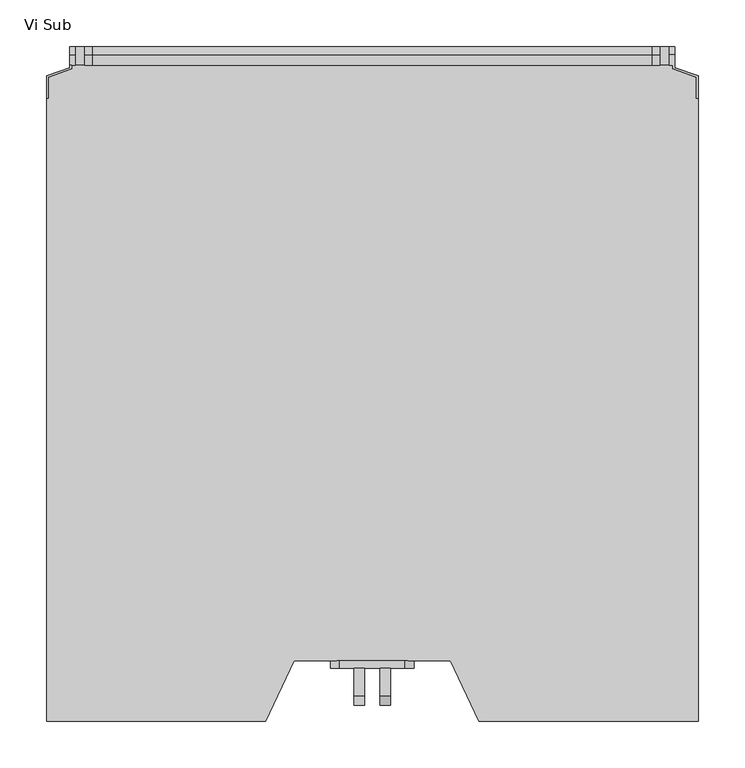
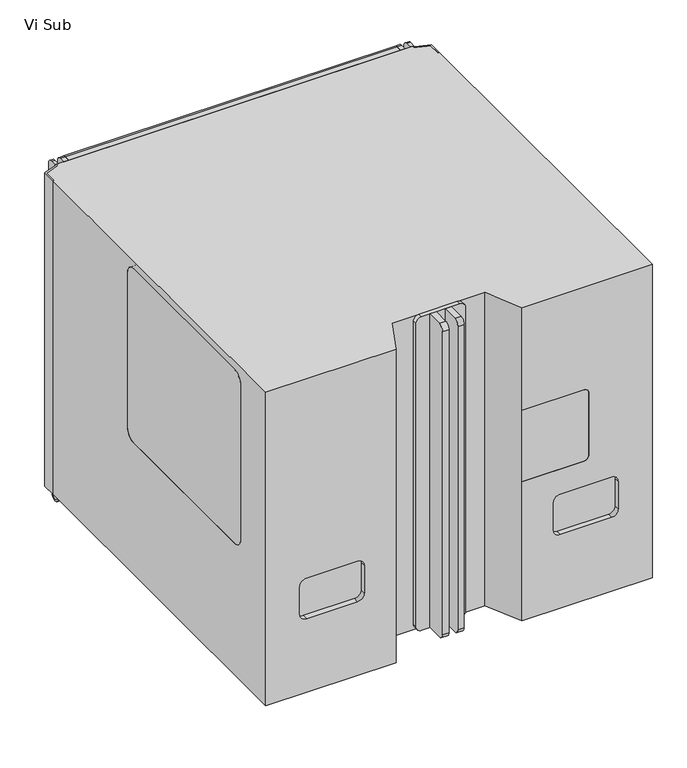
"""IFC4 building model written with IfcOpenShell, lengths in millimetres: proxy geometry, d&b V-Series Subwoofer : Vi Sub."""

from ifc_helpers import new_model, si_unit, point, frame, frame_2d, origin, place, context, project, spatial, polyline, circle_curve, trimmed, segment, composite_curve, outline, extrude, faceted_brep, source, transform, mapped, element, save
from ifc_brep_helpers import plane_surface, cylinder_surface, revolved_surface, advanced_brep


def vi_sub_f1fbe36c(model_context):
    return source(origin(), model_context, "Body", "SolidModel", [
        extrude(outline(composite_curve([segment(trimmed(circle_curve(frame_2d((352.25, -342.0)), 10.0), [point((362.25, -342.0))], [point((342.25, -342.0))], False, "CARTESIAN"), True, "CONTINUOUS"), segment(polyline([(342.25, -342.0), (342.25, -235.8)]), True, "CONTINUOUS"), segment(trimmed(circle_curve(frame_2d((352.25, -235.8)), 10.0), [point((342.25, -235.8))], [point((362.25, -235.8))], False, "CARTESIAN"), True, "CONTINUOUS"), segment(polyline([(362.25, -235.8), (362.25, -342.0)]), True, "CONTINUOUS")], self_intersect=False), holes=[composite_curve([segment(polyline([(346.25, -235.8), (346.25, -322.0)]), True, "CONTINUOUS"), segment(trimmed(circle_curve(frame_2d((352.25, -322.0)), 6.0), [point((346.25, -322.0))], [point((358.25, -322.0))], True, "CARTESIAN"), True, "CONTINUOUS"), segment(polyline([(358.25, -322.0), (358.25, -235.8)]), True, "CONTINUOUS"), segment(trimmed(circle_curve(frame_2d((352.25, -235.8)), 6.0), [point((358.25, -235.8))], [point((346.25, -235.8))], True, "CARTESIAN"), True, "CONTINUOUS")], self_intersect=False), composite_curve([segment(trimmed(circle_curve(frame_2d((352.25, -342.0)), 6.0), [point((358.25, -342.0))], [point((346.25, -342.0))], True, "CARTESIAN"), True, "CONTINUOUS"), segment(trimmed(circle_curve(frame_2d((352.25, -342.0)), 6.0), [point((346.25, -342.0))], [point((358.25, -342.0))], True, "CARTESIAN"), True, "CONTINUOUS")], self_intersect=False)]), frame((309.0, 0.0, 0.0), z_axis=(1.0, 0.0, 0.0), x_axis=(0.0, 1.0, 0.0)), (0.0, 0.0, 1.0), 10.0),
        extrude(outline(composite_curve([segment(trimmed(circle_curve(frame_2d((352.25, -342.0)), 10.0), [point((362.25, -342.0))], [point((342.25, -342.0))], False, "CARTESIAN"), True, "CONTINUOUS"), segment(polyline([(342.25, -342.0), (342.25, -235.8)]), True, "CONTINUOUS"), segment(trimmed(circle_curve(frame_2d((352.25, -235.8)), 10.0), [point((342.25, -235.8))], [point((362.25, -235.8))], False, "CARTESIAN"), True, "CONTINUOUS"), segment(polyline([(362.25, -235.8), (362.25, -342.0)]), True, "CONTINUOUS")], self_intersect=False), holes=[composite_curve([segment(polyline([(346.25, -235.8), (346.25, -322.0)]), True, "CONTINUOUS"), segment(trimmed(circle_curve(frame_2d((352.25, -322.0)), 6.0), [point((346.25, -322.0))], [point((358.25, -322.0))], True, "CARTESIAN"), True, "CONTINUOUS"), segment(polyline([(358.25, -322.0), (358.25, -235.8)]), True, "CONTINUOUS"), segment(trimmed(circle_curve(frame_2d((352.25, -235.8)), 6.0), [point((358.25, -235.8))], [point((346.25, -235.8))], True, "CARTESIAN"), True, "CONTINUOUS")], self_intersect=False), composite_curve([segment(trimmed(circle_curve(frame_2d((352.25, -342.0)), 6.0), [point((358.25, -342.0))], [point((346.25, -342.0))], True, "CARTESIAN"), True, "CONTINUOUS"), segment(trimmed(circle_curve(frame_2d((352.25, -342.0)), 6.0), [point((346.25, -342.0))], [point((358.25, -342.0))], True, "CARTESIAN"), True, "CONTINUOUS")], self_intersect=False)]), frame((-319.0, 0.0, 0.0), z_axis=(1.0, 0.0, 0.0), x_axis=(0.0, 1.0, 0.0)), (0.0, 0.0, 1.0), 10.0),
        extrude(outline(polyline([(-245.0, 342.25), (-280.0, 342.25), (-280.0, 362.25), (-245.0, 362.25), (-245.0, 342.25)])), frame((0.0, 0.0, 205.0), z_axis=(0.0, 0.0, 1.0), x_axis=(1.0, 0.0, 0.0)), (0.0, 0.0, 1.0), 35.0),
        extrude(outline(polyline([(-205.0, 342.25), (-240.0, 342.25), (-240.0, 362.25), (-205.0, 362.25), (-205.0, 342.25)])), frame((0.0, 0.0, 205.0), z_axis=(0.0, 0.0, 1.0), x_axis=(1.0, 0.0, 0.0)), (0.0, 0.0, 1.0), 35.0),
        extrude(outline(polyline([(-205.0, 342.25), (-240.0, 342.25), (-240.0, 362.25), (-205.0, 362.25), (-205.0, 342.25)])), frame((0.0, 0.0, 245.0), z_axis=(0.0, 0.0, 1.0), x_axis=(1.0, 0.0, 0.0)), (0.0, 0.0, 1.0), 35.0),
        extrude(outline(composite_curve([segment(trimmed(circle_curve(frame_2d((262.5, -262.5)), 17.5), [point((262.5, -245.0))], [point((262.5, -280.0))], False, "CARTESIAN"), True, "CONTINUOUS"), segment(trimmed(circle_curve(frame_2d((262.5, -262.5)), 17.5), [point((262.5, -280.0))], [point((262.5, -245.0))], False, "CARTESIAN"), True, "CONTINUOUS")], self_intersect=False)), frame((0.0, 342.25, 0.0), z_axis=(0.0, 1.0, 0.0), x_axis=(0.0, 0.0, 1.0)), (0.0, 0.0, 1.0), 20.0),
        advanced_brep(
        [(300.5, 342.25, -300.0), (300.5, 353.25, -300.0), (300.5, 362.25, -291.0), (300.5, 362.25, 291.0), (300.5, 353.25, 300.0), (300.5, 342.25, 300.0), (-300.5, 342.25, -300.0), (-300.5, 342.25, 300.0), (-300.5, 353.25, 300.0), (-300.5, 362.25, 291.0), (-300.5, 362.25, -291.0), (-300.5, 353.25, -300.0), (-280.0, 362.25, 205.0), (-245.0, 362.25, 205.0), (-245.0, 362.25, 240.0), (-280.0, 362.25, 240.0), (-240.0, 362.25, 205.0), (-205.0, 362.25, 205.0), (-205.0, 362.25, 240.0), (-240.0, 362.25, 240.0), (-240.0, 362.25, 245.0), (-205.0, 362.25, 245.0), (-205.0, 362.25, 280.0), (-240.0, 362.25, 280.0), (-245.0, 362.25, 262.5), (-280.0, 362.25, 262.5), (-245.0, 342.25, 205.0), (-280.0, 342.25, 205.0), (-280.0, 342.25, 240.0), (-245.0, 342.25, 240.0), (-205.0, 342.25, 205.0), (-240.0, 342.25, 205.0), (-240.0, 342.25, 240.0), (-205.0, 342.25, 240.0), (-205.0, 342.25, 245.0), (-240.0, 342.25, 245.0), (-240.0, 342.25, 280.0), (-205.0, 342.25, 280.0), (-280.0, 342.25, 262.5), (-245.0, 342.25, 262.5)],
        [
            (0, 1),
            (1, 2, circle_curve(frame((300.5, 353.25, -291.0), z_axis=(1.0, 0.0, 0.0), x_axis=(0.0, -1.0, 0.0)), 9.0)),
            (2, 3),
            (3, 4, circle_curve(frame((300.5, 353.25, 291.0), z_axis=(1.0, 0.0, 0.0), x_axis=(0.0, -1.0, 0.0)), 9.0)),
            (4, 5),
            (5, 0),
            (6, 7),
            (7, 8),
            (8, 9, circle_curve(frame((-300.5, 353.25, 291.0), z_axis=(-1.0, 0.0, 0.0), x_axis=(0.0, -1.0, 0.0)), 9.0)),
            (9, 10),
            (10, 11, circle_curve(frame((-300.5, 353.25, -291.0), z_axis=(-1.0, 0.0, 0.0), x_axis=(0.0, -1.0, 0.0)), 9.0)),
            (11, 6),
            (2, 10),
            (9, 3),
            (12, 13),
            (13, 14),
            (14, 15),
            (15, 12),
            (16, 17),
            (17, 18),
            (18, 19),
            (19, 16),
            (20, 21),
            (21, 22),
            (22, 23),
            (23, 20),
            (24, 25, circle_curve(frame((-262.5, 362.25, 262.5), z_axis=(0.0, -1.0, 0.0), x_axis=(1.0, 0.0, 0.0)), 17.5)),
            (25, 24, circle_curve(frame((-262.5, 362.25, 262.5), z_axis=(0.0, -1.0, 0.0), x_axis=(1.0, 0.0, 0.0)), 17.5)),
            (5, 7),
            (6, 0),
            (26, 27),
            (27, 28),
            (28, 29),
            (29, 26),
            (30, 31),
            (31, 32),
            (32, 33),
            (33, 30),
            (34, 35),
            (35, 36),
            (36, 37),
            (37, 34),
            (38, 39, circle_curve(frame((-262.5, 342.25, 262.5), z_axis=(0.0, 1.0, 0.0), x_axis=(1.0, 0.0, 0.0)), 17.5)),
            (39, 38, circle_curve(frame((-262.5, 342.25, 262.5), z_axis=(0.0, 1.0, 0.0), x_axis=(1.0, 0.0, 0.0)), 17.5)),
            (11, 1),
            (8, 4),
            (12, 27),
            (26, 13),
            (15, 28),
            (14, 29),
            (16, 31),
            (30, 17),
            (19, 32),
            (18, 33),
            (20, 35),
            (34, 21),
            (23, 36),
            (22, 37),
            (24, 39),
            (38, 25),
        ],
        [
            plane_surface(frame((300.5, 342.25, -300.0), z_axis=(1.0, 0.0, 0.0), x_axis=(0.0, 1.0, 0.0))),
            plane_surface(frame((-300.5, 342.25, -300.0), z_axis=(-1.0, 0.0, 0.0), x_axis=(0.0, -1.0, 0.0))),
            plane_surface(frame((300.5, 362.25, -291.0), z_axis=(0.0, 1.0, 0.0), x_axis=(-1.0, 0.0, 0.0))),
            plane_surface(frame((300.5, 342.25, 300.0), z_axis=(0.0, -1.0, 0.0), x_axis=(-1.0, 0.0, 0.0))),
            plane_surface(frame((300.5, 342.25, -300.0), z_axis=(0.0, 0.0, -1.0), x_axis=(-1.0, 0.0, 0.0))),
            cylinder_surface(frame((-300.5, 353.25, -291.0), z_axis=(1.0, 0.0, 0.0), x_axis=(0.0, -1.0, 0.0)), 9.0),
            cylinder_surface(frame((-300.5, 353.25, 291.0), z_axis=(1.0, 0.0, 0.0), x_axis=(0.0, -1.0, 0.0)), 9.0),
            plane_surface(frame((300.5, 353.25, 300.0), z_axis=(0.0, 0.0, 1.0), x_axis=(-1.0, 0.0, 0.0))),
            plane_surface(frame((-245.0, 362.25, 205.0), z_axis=(0.0, 0.0, 1.0), x_axis=(0.0, -1.0, 0.0))),
            plane_surface(frame((-280.0, 362.25, 205.0), z_axis=(1.0, 0.0, 0.0), x_axis=(0.0, -1.0, 0.0))),
            plane_surface(frame((-280.0, 362.25, 240.0), z_axis=(0.0, 0.0, -1.0), x_axis=(0.0, -1.0, 0.0))),
            plane_surface(frame((-245.0, 362.25, 240.0), z_axis=(-1.0, 0.0, 0.0), x_axis=(0.0, -1.0, 0.0))),
            plane_surface(frame((-205.0, 362.25, 205.0), z_axis=(0.0, 0.0, 1.0), x_axis=(0.0, -1.0, 0.0))),
            plane_surface(frame((-240.0, 362.25, 205.0), z_axis=(1.0, 0.0, 0.0), x_axis=(0.0, -1.0, 0.0))),
            plane_surface(frame((-240.0, 362.25, 240.0), z_axis=(0.0, 0.0, -1.0), x_axis=(0.0, -1.0, 0.0))),
            plane_surface(frame((-205.0, 362.25, 240.0), z_axis=(-1.0, 0.0, 0.0), x_axis=(0.0, -1.0, 0.0))),
            plane_surface(frame((-205.0, 362.25, 245.0), z_axis=(0.0, 0.0, 1.0), x_axis=(0.0, -1.0, 0.0))),
            plane_surface(frame((-240.0, 362.25, 245.0), z_axis=(1.0, 0.0, 0.0), x_axis=(0.0, -1.0, 0.0))),
            plane_surface(frame((-240.0, 362.25, 280.0), z_axis=(0.0, 0.0, -1.0), x_axis=(0.0, -1.0, 0.0))),
            plane_surface(frame((-205.0, 362.25, 280.0), z_axis=(-1.0, 0.0, 0.0), x_axis=(0.0, -1.0, 0.0))),
            revolved_surface(polyline([(-245.0, 362.25, 262.5), (-245.0, 342.25, 262.5)]), (-262.5, 230.0, 262.5), (0.0, 1.0, 0.0)),
        ],
        [
            (0, [[1, 2, 3, 4, 5, 6]]),
            (1, [[7, 8, 9, 10, 11, 12]]),
            (2, [[-3, 13, -10, 14], [15, 16, 17, 18], [19, 20, 21, 22], [23, 24, 25, 26], [27, 28]]),
            (3, [[-6, 29, -7, 30], [31, 32, 33, 34], [35, 36, 37, 38], [39, 40, 41, 42], [43, 44]]),
            (4, [[-1, -30, -12, 45]]),
            (5, [[-2, -45, -11, -13]]),
            (6, [[-4, -14, -9, 46]]),
            (7, [[-5, -46, -8, -29]]),
            (8, [[47, -31, 48, -15]]),
            (9, [[-47, -18, 49, -32]]),
            (10, [[-49, -17, 50, -33]]),
            (11, [[-48, -34, -50, -16]]),
            (12, [[51, -35, 52, -19]]),
            (13, [[-51, -22, 53, -36]]),
            (14, [[-53, -21, 54, -37]]),
            (15, [[-52, -38, -54, -20]]),
            (16, [[55, -39, 56, -23]]),
            (17, [[-55, -26, 57, -40]]),
            (18, [[-57, -25, 58, -41]]),
            (19, [[-56, -42, -58, -24]]),
            (20, [[59, -43, 60, -27]]),
            (20, [[-59, -28, -60, -44]]),
        ],
    ),
        advanced_brep(
        [(309.0, 362.25, 250.0), (319.0, 362.25, 250.0), (319.0, 362.25, 291.0), (325.0, 362.25, 291.0), (325.0, 362.25, -291.0), (319.0, 362.25, -291.0), (319.0, 362.25, -185.0), (309.0, 362.25, -185.0), (309.0, 362.25, -291.0), (300.5, 362.25, -291.0), (300.5, 362.25, 291.0), (309.0, 362.25, 291.0), (309.0, 342.25, -185.0), (319.0, 342.25, -185.0), (319.0, 342.25, -300.0), (323.0, 342.25, -300.0), (323.0, 342.25, 300.0), (319.0, 342.25, 300.0), (319.0, 342.25, 250.0), (309.0, 342.25, 250.0), (309.0, 342.25, 300.0), (300.5, 342.25, 300.0), (300.5, 342.25, -300.0), (309.0, 342.25, -300.0), (300.5, 353.25, -300.0), (300.5, 353.25, 300.0), (309.0, 353.25, 300.0), (309.0, 353.25, -300.0), (348.0, 306.75, -300.0), (348.0, 329.2503291, -300.0), (323.0, 338.3495849, -300.0), (319.0, 353.25, -300.0), (325.0, 353.25, -300.0), (325.0, 339.75, -300.0), (350.0, 330.6507441, -300.0), (350.0, 306.75, -300.0), (348.0, 306.75, 300.0), (350.0, 306.75, 300.0), (350.0, 330.6507441, 300.0), (325.0, 339.75, 300.0), (325.0, 353.25, 300.0), (319.0, 353.25, 300.0), (323.0, 338.3495849, 300.0), (348.0, 329.2503291, 300.0)],
        [
            (0, 1),
            (1, 2),
            (2, 3),
            (3, 4),
            (4, 5),
            (5, 6),
            (6, 7),
            (7, 8),
            (8, 9),
            (9, 10),
            (10, 11),
            (11, 0),
            (12, 13),
            (13, 14),
            (14, 15),
            (15, 16),
            (16, 17),
            (17, 18),
            (18, 19),
            (19, 20),
            (20, 21),
            (21, 22),
            (22, 23),
            (23, 12),
            (6, 13),
            (12, 7),
            (0, 19),
            (18, 1),
            (9, 24, circle_curve(frame((300.5, 353.25, -291.0), z_axis=(-1.0, 0.0, 0.0), x_axis=(0.0, -1.0, 0.0)), 9.0)),
            (24, 22),
            (21, 25),
            (25, 10, circle_curve(frame((300.5, 353.25, 291.0), z_axis=(-1.0, 0.0, 0.0), x_axis=(0.0, -1.0, 0.0)), 9.0)),
            (11, 26, circle_curve(frame((309.0, 353.25, 291.0), z_axis=(1.0, 0.0, 0.0), x_axis=(0.0, -1.0, 0.0)), 9.0)),
            (26, 20),
            (23, 27),
            (27, 8, circle_curve(frame((309.0, 353.25, -291.0), z_axis=(1.0, 0.0, 0.0), x_axis=(0.0, -1.0, 0.0)), 9.0)),
            (25, 26),
            (24, 27),
            (28, 29),
            (29, 30),
            (30, 15),
            (14, 31),
            (31, 32),
            (32, 33),
            (33, 34),
            (34, 35),
            (35, 28),
            (36, 37),
            (37, 38),
            (38, 39),
            (39, 40),
            (40, 41),
            (41, 17),
            (16, 42),
            (42, 43),
            (43, 36),
            (28, 36),
            (43, 29),
            (42, 30),
            (32, 4, circle_curve(frame((325.0, 353.25, -291.0), z_axis=(1.0, 0.0, 0.0), x_axis=(0.0, -1.0, 0.0)), 9.0)),
            (3, 40, circle_curve(frame((325.0, 353.25, 291.0), z_axis=(1.0, 0.0, 0.0), x_axis=(0.0, -1.0, 0.0)), 9.0)),
            (39, 33),
            (38, 34),
            (37, 35),
            (41, 2, circle_curve(frame((319.0, 353.25, 291.0), z_axis=(-1.0, 0.0, 0.0), x_axis=(0.0, -1.0, 0.0)), 9.0)),
            (5, 31, circle_curve(frame((319.0, 353.25, -291.0), z_axis=(-1.0, 0.0, 0.0), x_axis=(0.0, -1.0, 0.0)), 9.0)),
        ],
        [
            plane_surface(frame((309.0, 362.25, 250.0), z_axis=(0.0, 1.0, 0.0), x_axis=(1.0, 0.0, 0.0))),
            plane_surface(frame((309.0, 342.25, -185.0), z_axis=(0.0, -1.0, 0.0), x_axis=(1.0, 0.0, 0.0))),
            plane_surface(frame((309.0, 362.25, -185.0), z_axis=(0.0, 0.0, -1.0), x_axis=(1.0, 0.0, 0.0))),
            plane_surface(frame((309.0, 342.25, 250.0), z_axis=(0.0, 0.0, 1.0), x_axis=(1.0, 0.0, 0.0))),
            plane_surface(frame((300.5, 344.25, -291.0), z_axis=(-1.0, 0.0, 0.0), x_axis=(0.0, 0.0, 1.0))),
            plane_surface(frame((309.0, 344.25, -291.0), z_axis=(1.0, 0.0, 0.0), x_axis=(0.0, 0.0, -1.0))),
            cylinder_surface(frame((309.0, 353.25, 291.0), z_axis=(-1.0, 0.0, 0.0), x_axis=(0.0, -1.0, 0.0)), 9.0),
            plane_surface(frame((300.5, 342.25, 300.0), z_axis=(0.0, 0.0, 1.0), x_axis=(1.0, 0.0, 0.0))),
            plane_surface(frame((300.5, 353.25, -300.0), z_axis=(0.0, 0.0, -1.0), x_axis=(1.0, 0.0, 0.0))),
            cylinder_surface(frame((309.0, 353.25, -291.0), z_axis=(-1.0, 0.0, 0.0), x_axis=(0.0, -1.0, 0.0)), 9.0),
            plane_surface(frame((-350.0, 306.75, -300.0), z_axis=(0.0, 0.0, -1.0), x_axis=(-1.0, 0.0, 0.0))),
            plane_surface(frame((-350.0, 306.75, 300.0), z_axis=(0.0, 0.0, 1.0), x_axis=(1.0, 0.0, 0.0))),
            plane_surface(frame((348.0, 306.75, -300.0), z_axis=(-1.0, 0.0, 0.0), x_axis=(0.0, 0.0, 1.0))),
            plane_surface(frame((348.0, 329.2503291, -300.0), z_axis=(-0.34202014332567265, -0.939692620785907, 0.0), x_axis=(0.0, 0.0, 1.0))),
            plane_surface(frame((323.0, 338.3495849, -300.0), z_axis=(-1.0, 0.0, 0.0), x_axis=(0.0, 0.0, 1.0))),
            plane_surface(frame((325.0, 342.25, -300.0), z_axis=(1.0, 0.0, 0.0), x_axis=(0.0, 0.0, 1.0))),
            plane_surface(frame((325.0, 339.75, -300.0), z_axis=(0.34202014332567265, 0.939692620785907, 0.0), x_axis=(0.0, 0.0, 1.0))),
            plane_surface(frame((350.0, 330.6507441, -300.0), z_axis=(1.0, 0.0, 0.0), x_axis=(0.0, 0.0, 1.0))),
            plane_surface(frame((350.0, 306.75, -300.0), z_axis=(0.0, -1.0, 0.0), x_axis=(0.0, 0.0, 1.0))),
            plane_surface(frame((319.0, 342.25, 791.3874785), z_axis=(-1.0, 0.0, 0.0), x_axis=(0.0, 0.0, 1.0))),
            cylinder_surface(frame((325.0, 353.25, -291.0), z_axis=(-1.0, 0.0, 0.0), x_axis=(0.0, -1.0, 0.0)), 9.0),
            cylinder_surface(frame((325.0, 353.25, 291.0), z_axis=(-1.0, 0.0, 0.0), x_axis=(0.0, -1.0, 0.0)), 9.0),
        ],
        [
            (0, [[1, 2, 3, 4, 5, 6, 7, 8, 9, 10, 11, 12]]),
            (1, [[13, 14, 15, 16, 17, 18, 19, 20, 21, 22, 23, 24]]),
            (2, [[-7, 25, -13, 26]]),
            (3, [[-1, 27, -19, 28]]),
            (4, [[29, 30, -22, 31, 32, -10]]),
            (5, [[33, 34, -20, -27, -12]]),
            (5, [[35, 36, -8, -26, -24]]),
            (6, [[-32, 37, -33, -11]]),
            (7, [[-31, -21, -34, -37]]),
            (8, [[-30, 38, -35, -23]]),
            (9, [[-29, -9, -36, -38]]),
            (10, [[39, 40, 41, -15, 42, 43, 44, 45, 46, 47]]),
            (11, [[48, 49, 50, 51, 52, 53, -17, 54, 55, 56]]),
            (12, [[-39, 57, -56, 58]]),
            (13, [[-40, -58, -55, 59]]),
            (14, [[-41, -59, -54, -16]]),
            (15, [[-44, 60, -4, 61, -51, 62]]),
            (16, [[-45, -62, -50, 63]]),
            (17, [[-46, -63, -49, 64]]),
            (18, [[-47, -64, -48, -57]]),
            (19, [[-53, 65, -2, -28, -18]]),
            (19, [[66, -42, -14, -25, -6]]),
            (20, [[-66, -5, -60, -43]]),
            (21, [[-65, -52, -61, -3]]),
        ],
    ),
        faceted_brep([(-348.0, 306.75, -300.0), (-350.0, 306.75, -300.0), (-350.0, 330.6507441, -300.0), (-325.0, 339.75, -300.0), (-325.0, 342.25, -300.0), (-323.0, 342.25, -300.0), (-323.0, 338.3495849, -300.0), (-348.0, 329.2503291, -300.0), (-348.0, 306.75, 300.0), (-348.0, 329.2503291, 300.0), (-323.0, 338.3495849, 300.0), (-323.0, 342.25, 300.0), (-325.0, 342.25, 300.0), (-325.0, 339.75, 300.0), (-350.0, 330.6507441, 300.0), (-350.0, 306.75, 300.0)], [[[0, 1, 2, 3, 4, 5, 6, 7]], [[8, 9, 10, 11, 12, 13, 14, 15]], [[1, 0, 8, 15]], [[2, 1, 15, 14]], [[3, 2, 14, 13]], [[4, 3, 13, 12]], [[5, 4, 12, 11]], [[6, 5, 11, 10]], [[7, 6, 10, 9]], [[0, 7, 9, 8]]]),
        advanced_brep(
        [(-309.0, 362.25, -185.0), (-319.0, 362.25, -185.0), (-319.0, 362.25, -291.0), (-325.0, 362.25, -291.0), (-325.0, 362.25, 291.0), (-319.0, 362.25, 291.0), (-319.0, 362.25, 250.0), (-309.0, 362.25, 250.0), (-309.0, 362.25, 291.0), (-300.5, 362.25, 291.0), (-300.5, 362.25, -291.0), (-309.0, 362.25, -291.0), (-309.0, 342.25, 250.0), (-319.0, 342.25, 250.0), (-319.0, 342.25, 300.0), (-325.0, 342.25, 300.0), (-325.0, 342.25, -300.0), (-319.0, 342.25, -300.0), (-319.0, 342.25, -185.0), (-309.0, 342.25, -185.0), (-309.0, 342.25, -300.0), (-300.5, 342.25, -300.0), (-300.5, 342.25, 300.0), (-309.0, 342.25, 300.0), (-319.0, 353.25, -300.0), (-319.0, 353.25, 300.0), (-325.0, 353.25, 300.0), (-325.0, 353.25, -300.0), (-300.5, 353.25, 300.0), (-300.5, 353.25, -300.0), (-309.0, 353.25, -300.0), (-309.0, 353.25, 300.0)],
        [
            (0, 1),
            (1, 2),
            (2, 3),
            (3, 4),
            (4, 5),
            (5, 6),
            (6, 7),
            (7, 8),
            (8, 9),
            (9, 10),
            (10, 11),
            (11, 0),
            (12, 13),
            (13, 14),
            (14, 15),
            (15, 16),
            (16, 17),
            (17, 18),
            (18, 19),
            (19, 20),
            (20, 21),
            (21, 22),
            (22, 23),
            (23, 12),
            (0, 19),
            (18, 1),
            (6, 13),
            (12, 7),
            (17, 24),
            (24, 2, circle_curve(frame((-319.0, 353.25, -291.0), z_axis=(1.0, 0.0, 0.0), x_axis=(0.0, -1.0, 0.0)), 9.0)),
            (5, 25, circle_curve(frame((-319.0, 353.25, 291.0), z_axis=(1.0, 0.0, 0.0), x_axis=(0.0, -1.0, 0.0)), 9.0)),
            (25, 14),
            (15, 26),
            (26, 4, circle_curve(frame((-325.0, 353.25, 291.0), z_axis=(-1.0, 0.0, 0.0), x_axis=(0.0, -1.0, 0.0)), 9.0)),
            (3, 27, circle_curve(frame((-325.0, 353.25, -291.0), z_axis=(-1.0, 0.0, 0.0), x_axis=(0.0, -1.0, 0.0)), 9.0)),
            (27, 16),
            (27, 24),
            (26, 25),
            (9, 28, circle_curve(frame((-300.5, 353.25, 291.0), z_axis=(1.0, 0.0, 0.0), x_axis=(0.0, -1.0, 0.0)), 9.0)),
            (28, 22),
            (21, 29),
            (29, 10, circle_curve(frame((-300.5, 353.25, -291.0), z_axis=(1.0, 0.0, 0.0), x_axis=(0.0, -1.0, 0.0)), 9.0)),
            (11, 30, circle_curve(frame((-309.0, 353.25, -291.0), z_axis=(-1.0, 0.0, 0.0), x_axis=(0.0, -1.0, 0.0)), 9.0)),
            (30, 20),
            (23, 31),
            (31, 8, circle_curve(frame((-309.0, 353.25, 291.0), z_axis=(-1.0, 0.0, 0.0), x_axis=(0.0, -1.0, 0.0)), 9.0)),
            (31, 28),
            (30, 29),
        ],
        [
            plane_surface(frame((-309.0, 362.25, -185.0), z_axis=(0.0, 1.0, 0.0), x_axis=(-1.0, 0.0, 0.0))),
            plane_surface(frame((-309.0, 342.25, 250.0), z_axis=(0.0, -1.0, 0.0), x_axis=(-1.0, 0.0, 0.0))),
            plane_surface(frame((-309.0, 342.25, -185.0), z_axis=(0.0, 0.0, -1.0), x_axis=(-1.0, 0.0, 0.0))),
            plane_surface(frame((-309.0, 362.25, 250.0), z_axis=(0.0, 0.0, 1.0), x_axis=(-1.0, 0.0, 0.0))),
            plane_surface(frame((-319.0, 342.25, -300.0), z_axis=(1.0, 0.0, 0.0), x_axis=(0.0, 1.0, 0.0))),
            plane_surface(frame((-325.0, 342.25, -300.0), z_axis=(-1.0, 0.0, 0.0), x_axis=(0.0, -1.0, 0.0))),
            plane_surface(frame((-319.0, 342.25, -300.0), z_axis=(0.0, 0.0, -1.0), x_axis=(-1.0, 0.0, 0.0))),
            cylinder_surface(frame((-325.0, 353.25, -291.0), z_axis=(1.0, 0.0, 0.0), x_axis=(0.0, -1.0, 0.0)), 9.0),
            cylinder_surface(frame((-325.0, 353.25, 291.0), z_axis=(1.0, 0.0, 0.0), x_axis=(0.0, -1.0, 0.0)), 9.0),
            plane_surface(frame((-319.0, 353.25, 300.0), z_axis=(0.0, 0.0, 1.0), x_axis=(-1.0, 0.0, 0.0))),
            plane_surface(frame((-300.5, 362.25, -291.0), z_axis=(1.0, 0.0, 0.0), x_axis=(0.0, 0.0, 1.0))),
            plane_surface(frame((-309.0, 362.25, -291.0), z_axis=(-1.0, 0.0, 0.0), x_axis=(0.0, 0.0, -1.0))),
            cylinder_surface(frame((-309.0, 353.25, 291.0), z_axis=(1.0, 0.0, 0.0), x_axis=(0.0, -1.0, 0.0)), 9.0),
            plane_surface(frame((-300.5, 353.25, 300.0), z_axis=(0.0, 0.0, 1.0), x_axis=(-1.0, 0.0, 0.0))),
            plane_surface(frame((-300.5, 342.25, -300.0), z_axis=(0.0, 0.0, -1.0), x_axis=(-1.0, 0.0, 0.0))),
            cylinder_surface(frame((-309.0, 353.25, -291.0), z_axis=(1.0, 0.0, 0.0), x_axis=(0.0, -1.0, 0.0)), 9.0),
        ],
        [
            (0, [[1, 2, 3, 4, 5, 6, 7, 8, 9, 10, 11, 12]]),
            (1, [[13, 14, 15, 16, 17, 18, 19, 20, 21, 22, 23, 24]]),
            (2, [[-1, 25, -19, 26]]),
            (3, [[-7, 27, -13, 28]]),
            (4, [[29, 30, -2, -26, -18]]),
            (4, [[31, 32, -14, -27, -6]]),
            (5, [[-16, 33, 34, -4, 35, 36]]),
            (6, [[-29, -17, -36, 37]]),
            (7, [[-30, -37, -35, -3]]),
            (8, [[-31, -5, -34, 38]]),
            (9, [[-32, -38, -33, -15]]),
            (10, [[-10, 39, 40, -22, 41, 42]]),
            (11, [[43, 44, -20, -25, -12]]),
            (11, [[45, 46, -8, -28, -24]]),
            (12, [[-39, -9, -46, 47]]),
            (13, [[-40, -47, -45, -23]]),
            (14, [[-41, -21, -44, 48]]),
            (15, [[-42, -48, -43, -11]]),
        ],
    ),
        extrude(outline(composite_curve([segment(trimmed(circle_curve(frame_2d((-334.75, 290.0)), 10.0), [point((-344.75, 290.0))], [point((-334.75, 300.0))], False, "CARTESIAN"), True, "CONTINUOUS"), segment(polyline([(-334.75, 300.0), (-305.25, 300.0), (-305.25, -300.04678), (-334.75, -300.04678)]), True, "CONTINUOUS"), segment(trimmed(circle_curve(frame_2d((-334.75, -290.04678)), 10.0), [point((-334.75, -300.04678))], [point((-344.75, -290.04678))], False, "CARTESIAN"), True, "CONTINUOUS"), segment(polyline([(-344.75, -290.04678), (-344.75, 290.0)]), True, "CONTINUOUS")], self_intersect=False)), frame((8.25, 0.0, 0.0), z_axis=(1.0, 0.0, 0.0), x_axis=(0.0, 1.0, 0.0)), (0.0, 0.0, 1.0), 11.25),
        extrude(outline(composite_curve([segment(trimmed(circle_curve(frame_2d((-334.75, 290.0)), 10.0), [point((-344.75, 290.0))], [point((-334.75, 300.0))], False, "CARTESIAN"), True, "CONTINUOUS"), segment(polyline([(-334.75, 300.0), (-305.25, 300.0), (-305.25, -300.04678), (-334.75, -300.04678)]), True, "CONTINUOUS"), segment(trimmed(circle_curve(frame_2d((-334.75, -290.04678)), 10.0), [point((-334.75, -300.04678))], [point((-344.75, -290.04678))], False, "CARTESIAN"), True, "CONTINUOUS"), segment(polyline([(-344.75, -290.04678), (-344.75, 290.0)]), True, "CONTINUOUS")], self_intersect=False)), frame((-19.5, 0.0, 0.0), z_axis=(1.0, 0.0, 0.0), x_axis=(0.0, 1.0, 0.0)), (0.0, 0.0, 1.0), 11.25),
        extrude(outline(composite_curve([segment(polyline([(290.0, -45.0), (-290.0, -45.0)]), True, "CONTINUOUS"), segment(trimmed(circle_curve(frame_2d((-290.0, -35.0)), 10.0), [point((-290.0, -45.0))], [point((-300.0, -35.0))], False, "CARTESIAN"), True, "CONTINUOUS"), segment(polyline([(-300.0, -35.0), (-300.0, 35.0)]), True, "CONTINUOUS"), segment(trimmed(circle_curve(frame_2d((-290.0, 35.0)), 10.0), [point((-300.0, 35.0))], [point((-290.0, 45.0))], False, "CARTESIAN"), True, "CONTINUOUS"), segment(polyline([(-290.0, 45.0), (290.0, 45.0)]), True, "CONTINUOUS"), segment(trimmed(circle_curve(frame_2d((290.0, 35.0)), 10.0), [point((290.0, 45.0))], [point((300.0, 35.0))], False, "CARTESIAN"), True, "CONTINUOUS"), segment(polyline([(300.0, 35.0), (300.0, -35.0)]), True, "CONTINUOUS"), segment(trimmed(circle_curve(frame_2d((290.0, -35.0)), 10.0), [point((300.0, -35.0))], [point((290.0, -45.0))], False, "CARTESIAN"), True, "CONTINUOUS")], self_intersect=False)), frame((0.0, -305.25, 0.0), z_axis=(0.0, 1.0, 0.0), x_axis=(0.0, 0.0, 1.0)), (0.0, 0.0, 1.0), 8.0),
        advanced_brep(
        [(114.5, -352.25, -33.5), (226.1099978, -352.25, -33.5), (235.3099978, -352.25, -24.3), (235.3099978, -352.25, 94.3), (226.1099978, -352.25, 103.5), (114.5, -352.25, 103.5), (276.5, -352.25, -158.5), (288.5, -352.25, -146.5), (288.5, -352.25, -93.5), (276.5, -352.25, -81.5), (183.5, -352.25, -81.5), (171.5, -352.25, -93.5), (171.5, -352.25, -146.5), (183.5, -352.25, -158.5), (-276.5, -352.25, -158.5), (-183.5, -352.25, -158.5), (-171.5, -352.25, -146.5), (-171.5, -352.25, -93.5), (-183.5, -352.25, -81.5), (-276.5, -352.25, -81.5), (-288.5, -352.25, -93.5), (-288.5, -352.25, -146.5), (114.5, -362.25, 103.5), (114.5, -362.25, -33.5), (226.1099978, -362.25, 103.5), (235.3099978, -362.25, 94.3), (235.3099978, -362.25, -24.3), (226.1099978, -362.25, -33.5), (183.5, -362.25, -158.5), (276.5, -362.25, -158.5), (171.5, -362.25, -146.5), (171.5, -362.25, -93.5), (183.5, -362.25, -81.5), (276.5, -362.25, -81.5), (288.5, -362.25, -93.5), (288.5, -362.25, -146.5), (-288.5, -362.25, -146.5), (-276.5, -362.25, -158.5), (-288.5, -362.25, -93.5), (-276.5, -362.25, -81.5), (-183.5, -362.25, -81.5), (-171.5, -362.25, -93.5), (-171.5, -362.25, -146.5), (-183.5, -362.25, -158.5), (-114.5, -362.25, -300.0), (-350.0, -362.25, -300.0), (-350.0, 306.75, -300.0), (-348.0, 306.75, -300.0), (-348.0, 329.2503291, -300.0), (-323.0, 338.3495849, -300.0), (-323.0, 342.25, -300.0), (323.0, 342.25, -300.0), (323.0, 338.3495849, -300.0), (348.0, 329.2503291, -300.0), (348.0, 306.75, -300.0), (350.0, 306.75, -300.0), (350.0, -362.25, -300.0), (114.5, -362.25, -300.0), (84.1900022, -297.25, -300.0), (-84.1900022, -297.25, -300.0), (-114.5, -362.25, 300.0), (-84.1900022, -297.25, 300.0), (84.1900022, -297.25, 300.0), (114.5, -362.25, 300.0), (350.0, -362.25, 300.0), (350.0, 306.75, 300.0), (348.0, 306.75, 300.0), (348.0, 329.2503291, 300.0), (323.0, 338.3495849, 300.0), (323.0, 342.25, 300.0), (-323.0, 342.25, 300.0), (-323.0, 338.3495849, 300.0), (-348.0, 329.2503291, 300.0), (-348.0, 306.75, 300.0), (-350.0, 306.75, 300.0), (-350.0, -362.25, 300.0), (-350.0, 52.75, -48.0), (-350.0, 71.75, -29.0), (-350.0, 71.75, 266.0), (-350.0, 52.75, 285.0), (-350.0, -264.25, 285.0), (-350.0, -283.25, 266.0), (-350.0, -283.25, -29.0), (-350.0, -264.25, -48.0), (-340.0, 52.75, -48.0), (-340.0, -264.25, -48.0), (-340.0, -283.25, -29.0), (-340.0, -283.25, 266.0), (-340.0, -264.25, 285.0), (-340.0, 52.75, 285.0), (-340.0, 71.75, 266.0), (-340.0, 71.75, -29.0)],
        [
            (0, 1),
            (1, 2, circle_curve(frame((226.1099978, -352.25, -24.3), z_axis=(0.0, -1.0, 0.0), x_axis=(-1.0, 0.0, 0.0)), 9.2)),
            (2, 3),
            (3, 4, circle_curve(frame((226.1099978, -352.25, 94.3), z_axis=(0.0, -1.0, 0.0), x_axis=(-1.0, 0.0, 0.0)), 9.2)),
            (4, 5),
            (5, 0),
            (6, 7, circle_curve(frame((276.5, -352.25, -146.5), z_axis=(0.0, -1.0, 0.0), x_axis=(-1.0, 0.0, 0.0)), 12.0)),
            (7, 8),
            (8, 9, circle_curve(frame((276.5, -352.25, -93.5), z_axis=(0.0, -1.0, 0.0), x_axis=(-1.0, 0.0, 0.0)), 12.0)),
            (9, 10),
            (10, 11, circle_curve(frame((183.5, -352.25, -93.5), z_axis=(0.0, -1.0, 0.0), x_axis=(-1.0, 0.0, 0.0)), 12.0)),
            (11, 12),
            (12, 13, circle_curve(frame((183.5, -352.25, -146.5), z_axis=(0.0, -1.0, 0.0), x_axis=(-1.0, 0.0, 0.0)), 12.0)),
            (13, 6),
            (14, 15),
            (15, 16, circle_curve(frame((-183.5, -352.25, -146.5), z_axis=(0.0, -1.0, 0.0), x_axis=(-1.0, 0.0, 0.0)), 12.0)),
            (16, 17),
            (17, 18, circle_curve(frame((-183.5, -352.25, -93.5), z_axis=(0.0, -1.0, 0.0), x_axis=(-1.0, 0.0, 0.0)), 12.0)),
            (18, 19),
            (19, 20, circle_curve(frame((-276.5, -352.25, -93.5), z_axis=(0.0, -1.0, 0.0), x_axis=(-1.0, 0.0, 0.0)), 12.0)),
            (20, 21),
            (21, 14, circle_curve(frame((-276.5, -352.25, -146.5), z_axis=(0.0, -1.0, 0.0), x_axis=(-1.0, 0.0, 0.0)), 12.0)),
            (5, 22),
            (22, 23),
            (23, 0),
            (4, 24),
            (24, 22),
            (3, 25),
            (25, 24, circle_curve(frame((226.1099978, -362.25, 94.3), z_axis=(0.0, -1.0, 0.0), x_axis=(-1.0, 0.0, 0.0)), 9.2)),
            (2, 26),
            (26, 25),
            (1, 27),
            (27, 26, circle_curve(frame((226.1099978, -362.25, -24.3), z_axis=(0.0, -1.0, 0.0), x_axis=(-1.0, 0.0, 0.0)), 9.2)),
            (23, 27),
            (13, 28),
            (28, 29),
            (29, 6),
            (12, 30),
            (30, 28, circle_curve(frame((183.5, -362.25, -146.5), z_axis=(0.0, -1.0, 0.0), x_axis=(-1.0, 0.0, 0.0)), 12.0)),
            (11, 31),
            (31, 30),
            (10, 32),
            (32, 31, circle_curve(frame((183.5, -362.25, -93.5), z_axis=(0.0, -1.0, 0.0), x_axis=(-1.0, 0.0, 0.0)), 12.0)),
            (9, 33),
            (33, 32),
            (8, 34),
            (34, 33, circle_curve(frame((276.5, -362.25, -93.5), z_axis=(0.0, -1.0, 0.0), x_axis=(-1.0, 0.0, 0.0)), 12.0)),
            (7, 35),
            (35, 34),
            (29, 35, circle_curve(frame((276.5, -362.25, -146.5), z_axis=(0.0, -1.0, 0.0), x_axis=(-1.0, 0.0, 0.0)), 12.0)),
            (21, 36),
            (36, 37, circle_curve(frame((-276.5, -362.25, -146.5), z_axis=(0.0, -1.0, 0.0), x_axis=(-1.0, 0.0, 0.0)), 12.0)),
            (37, 14),
            (20, 38),
            (38, 36),
            (19, 39),
            (39, 38, circle_curve(frame((-276.5, -362.25, -93.5), z_axis=(0.0, -1.0, 0.0), x_axis=(-1.0, 0.0, 0.0)), 12.0)),
            (18, 40),
            (40, 39),
            (17, 41),
            (41, 40, circle_curve(frame((-183.5, -362.25, -93.5), z_axis=(0.0, -1.0, 0.0), x_axis=(-1.0, 0.0, 0.0)), 12.0)),
            (16, 42),
            (42, 41),
            (15, 43),
            (43, 42, circle_curve(frame((-183.5, -362.25, -146.5), z_axis=(0.0, -1.0, 0.0), x_axis=(-1.0, 0.0, 0.0)), 12.0)),
            (37, 43),
            (44, 45),
            (45, 46),
            (46, 47),
            (47, 48),
            (48, 49),
            (49, 50),
            (50, 51),
            (51, 52),
            (52, 53),
            (53, 54),
            (54, 55),
            (55, 56),
            (56, 57),
            (57, 58),
            (58, 59),
            (59, 44),
            (60, 61),
            (61, 62),
            (62, 63),
            (63, 64),
            (64, 65),
            (65, 66),
            (66, 67),
            (67, 68),
            (68, 69),
            (69, 70),
            (70, 71),
            (71, 72),
            (72, 73),
            (73, 74),
            (74, 75),
            (75, 60),
            (44, 60),
            (75, 45),
            (74, 46),
            (76, 77, circle_curve(frame((-350.0, 52.75, -29.0), z_axis=(1.0, 0.0, 0.0), x_axis=(0.0, -1.0, 0.0)), 19.0)),
            (77, 78),
            (78, 79, circle_curve(frame((-350.0, 52.75, 266.0), z_axis=(1.0, 0.0, 0.0), x_axis=(0.0, -1.0, 0.0)), 19.0)),
            (79, 80),
            (80, 81, circle_curve(frame((-350.0, -264.25, 266.0), z_axis=(1.0, 0.0, 0.0), x_axis=(0.0, -1.0, 0.0)), 19.0)),
            (81, 82),
            (82, 83, circle_curve(frame((-350.0, -264.25, -29.0), z_axis=(1.0, 0.0, 0.0), x_axis=(0.0, -1.0, 0.0)), 19.0)),
            (83, 76),
            (73, 47),
            (72, 48),
            (71, 49),
            (70, 50),
            (69, 51),
            (55, 65),
            (64, 56),
            (63, 22),
            (23, 57),
            (62, 58),
            (61, 59),
            (68, 52),
            (67, 53),
            (66, 54),
            (84, 85),
            (85, 86, circle_curve(frame((-340.0, -264.25, -29.0), z_axis=(-1.0, 0.0, 0.0), x_axis=(0.0, -1.0, 0.0)), 19.0)),
            (86, 87),
            (87, 88, circle_curve(frame((-340.0, -264.25, 266.0), z_axis=(-1.0, 0.0, 0.0), x_axis=(0.0, -1.0, 0.0)), 19.0)),
            (88, 89),
            (89, 90, circle_curve(frame((-340.0, 52.75, 266.0), z_axis=(-1.0, 0.0, 0.0), x_axis=(0.0, -1.0, 0.0)), 19.0)),
            (90, 91),
            (91, 84, circle_curve(frame((-340.0, 52.75, -29.0), z_axis=(-1.0, 0.0, 0.0), x_axis=(0.0, -1.0, 0.0)), 19.0)),
            (91, 77),
            (76, 84),
            (90, 78),
            (89, 79),
            (88, 80),
            (87, 81),
            (86, 82),
            (85, 83),
        ],
        [
            plane_surface(frame((114.5, -352.25, 454.5753156), z_axis=(0.0, -1.0, 0.0), x_axis=(0.0, 0.0, 1.0))),
            plane_surface(frame((114.5, -352.25, -33.5), z_axis=(1.0, 0.0, 0.0), x_axis=(0.0, -1.0, 0.0))),
            plane_surface(frame((114.5, -352.25, 103.5), z_axis=(0.0, 0.0, -1.0), x_axis=(0.0, -1.0, 0.0))),
            revolved_surface(polyline([(216.9099978, -352.25, 94.3), (216.9099978, -362.25, 94.3)]), (226.1099978, -362.25, 94.3), (0.0, 1.0, 0.0)),
            plane_surface(frame((235.3099978, -352.25, 94.3), z_axis=(-1.0, 0.0, 0.0), x_axis=(0.0, -1.0, 0.0))),
            revolved_surface(polyline([(216.9099978, -352.25, -24.3), (216.9099978, -362.25, -24.3)]), (226.1099978, -362.25, -24.3), (0.0, 1.0, 0.0)),
            plane_surface(frame((226.1099978, -352.25, -33.5), z_axis=(0.0, 0.0, 1.0), x_axis=(0.0, -1.0, 0.0))),
            plane_surface(frame((276.5, -352.25, -158.5), z_axis=(0.0, 0.0, 1.0), x_axis=(0.0, -1.0, 0.0))),
            revolved_surface(polyline([(171.5, -352.25, -146.5), (171.5, -362.25, -146.5)]), (183.5, -362.25, -146.5), (0.0, 1.0, 0.0)),
            plane_surface(frame((171.5, -352.25, -146.5), z_axis=(1.0, 0.0, 0.0), x_axis=(0.0, -1.0, 0.0))),
            revolved_surface(polyline([(171.5, -352.25, -93.5), (171.5, -362.25, -93.5)]), (183.5, -362.25, -93.5), (0.0, 1.0, 0.0)),
            plane_surface(frame((183.5, -352.25, -81.5), z_axis=(0.0, 0.0, -1.0), x_axis=(0.0, -1.0, 0.0))),
            revolved_surface(polyline([(264.5, -352.25, -93.5), (264.5, -362.25, -93.5)]), (276.5, -362.25, -93.5), (0.0, 1.0, 0.0)),
            plane_surface(frame((288.5, -352.25, -93.5), z_axis=(-1.0, 0.0, 0.0), x_axis=(0.0, -1.0, 0.0))),
            revolved_surface(polyline([(264.5, -352.25, -146.5), (264.5, -362.25, -146.5)]), (276.5, -362.25, -146.5), (0.0, 1.0, 0.0)),
            revolved_surface(polyline([(-288.5, -352.25, -146.5), (-288.5, -362.25, -146.5)]), (-276.5, -362.25, -146.5), (0.0, 1.0, 0.0)),
            plane_surface(frame((-288.5, -352.25, -146.5), z_axis=(1.0, 0.0, 0.0), x_axis=(0.0, -1.0, 0.0))),
            revolved_surface(polyline([(-288.5, -352.25, -93.5), (-288.5, -362.25, -93.5)]), (-276.5, -362.25, -93.5), (0.0, 1.0, 0.0)),
            plane_surface(frame((-276.5, -352.25, -81.5), z_axis=(0.0, 0.0, -1.0), x_axis=(0.0, -1.0, 0.0))),
            revolved_surface(polyline([(-195.5, -352.25, -93.5), (-195.5, -362.25, -93.5)]), (-183.5, -362.25, -93.5), (0.0, 1.0, 0.0)),
            plane_surface(frame((-171.5, -352.25, -93.5), z_axis=(-1.0, 0.0, 0.0), x_axis=(0.0, -1.0, 0.0))),
            revolved_surface(polyline([(-195.5, -352.25, -146.5), (-195.5, -362.25, -146.5)]), (-183.5, -362.25, -146.5), (0.0, 1.0, 0.0)),
            plane_surface(frame((-183.5, -352.25, -158.5), z_axis=(0.0, 0.0, 1.0), x_axis=(0.0, -1.0, 0.0))),
            plane_surface(frame((-344.0, -362.25, -300.0), z_axis=(0.0, 0.0, -1.0), x_axis=(-1.0, 0.0, 0.0))),
            plane_surface(frame((-344.0, -362.25, 300.0), z_axis=(0.0, 0.0, 1.0), x_axis=(1.0, 0.0, 0.0))),
            plane_surface(frame((-114.5, -362.25, -300.0), z_axis=(0.0, -1.0, 0.0), x_axis=(0.0, 0.0, 1.0))),
            plane_surface(frame((-350.0, -362.25, -300.0), z_axis=(-1.0, 0.0, 0.0), x_axis=(0.0, 0.0, 1.0))),
            plane_surface(frame((-350.0, 306.75, -300.0), z_axis=(0.0, 1.0, 0.0), x_axis=(0.0, 0.0, 1.0))),
            plane_surface(frame((-348.0, 306.75, -300.0), z_axis=(-1.0, 0.0, 0.0), x_axis=(0.0, 0.0, 1.0))),
            plane_surface(frame((-348.0, 329.2503291, -300.0), z_axis=(-0.342020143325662, 0.9396926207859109, 0.0), x_axis=(0.0, 0.0, 1.0))),
            plane_surface(frame((-323.0, 338.3495849, -300.0), z_axis=(-1.0, 0.0, 0.0), x_axis=(0.0, 0.0, 1.0))),
            plane_surface(frame((-323.0, 342.25, -300.0), z_axis=(0.0, 1.0, 0.0), x_axis=(0.0, 0.0, 1.0))),
            plane_surface(frame((350.0, 306.75, -300.0), z_axis=(1.0, 0.0, 0.0), x_axis=(0.0, 0.0, 1.0))),
            plane_surface(frame((350.0, -362.25, -300.0), z_axis=(0.0, -1.0, 0.0), x_axis=(0.0, 0.0, 1.0))),
            plane_surface(frame((114.5, -362.25, -300.0), z_axis=(-0.9063077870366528, -0.42261826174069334, 0.0), x_axis=(0.0, 0.0, 1.0))),
            plane_surface(frame((84.1900022, -297.25, -300.0), z_axis=(0.0, -1.0, 0.0), x_axis=(0.0, 0.0, 1.0))),
            plane_surface(frame((-84.1900022, -297.25, -300.0), z_axis=(0.9063077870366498, -0.42261826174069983, 0.0), x_axis=(0.0, 0.0, 1.0))),
            plane_surface(frame((323.0, 342.25, -300.0), z_axis=(1.0, 0.0, 0.0), x_axis=(0.0, 0.0, 1.0))),
            plane_surface(frame((323.0, 338.3495849, -300.0), z_axis=(0.34202014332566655, 0.9396926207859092, 0.0), x_axis=(0.0, 0.0, 1.0))),
            plane_surface(frame((348.0, 329.2503291, -300.0), z_axis=(1.0, 0.0, 0.0), x_axis=(0.0, 0.0, 1.0))),
            plane_surface(frame((348.0, 306.75, -300.0), z_axis=(0.0, 1.0, 0.0), x_axis=(0.0, 0.0, 1.0))),
            plane_surface(frame((-340.0, 33.75, -29.0), z_axis=(-1.0, 0.0, 0.0), x_axis=(0.0, 0.0, -1.0))),
            revolved_surface(polyline([(-340.0, 33.75, -29.0), (-350.0, 33.75, -29.0)]), (-350.0, 52.75, -29.0), (1.0, 0.0, 0.0)),
            plane_surface(frame((-340.0, 71.75, -29.0), z_axis=(0.0, -1.0, 0.0), x_axis=(-1.0, 0.0, 0.0))),
            revolved_surface(polyline([(-340.0, 33.75, 266.0), (-350.0, 33.75, 266.0)]), (-350.0, 52.75, 266.0), (1.0, 0.0, 0.0)),
            plane_surface(frame((-340.0, 52.75, 285.0), z_axis=(0.0, 0.0, -1.0), x_axis=(-1.0, 0.0, 0.0))),
            revolved_surface(polyline([(-340.0, -283.25, 266.0), (-350.0, -283.25, 266.0)]), (-350.0, -264.25, 266.0), (1.0, 0.0, 0.0)),
            plane_surface(frame((-340.0, -283.25, 266.0), z_axis=(0.0, 1.0, 0.0), x_axis=(-1.0, 0.0, 0.0))),
            revolved_surface(polyline([(-340.0, -283.25, -29.0), (-350.0, -283.25, -29.0)]), (-350.0, -264.25, -29.0), (1.0, 0.0, 0.0)),
            plane_surface(frame((-340.0, -264.25, -48.0), z_axis=(0.0, 0.0, 1.0), x_axis=(-1.0, 0.0, 0.0))),
        ],
        [
            (0, [[1, 2, 3, 4, 5, 6]]),
            (0, [[7, 8, 9, 10, 11, 12, 13, 14]]),
            (0, [[15, 16, 17, 18, 19, 20, 21, 22]]),
            (1, [[-6, 23, 24, 25]]),
            (2, [[-5, 26, 27, -23]]),
            (3, [[-4, 28, 29, -26]]),
            (4, [[-3, 30, 31, -28]]),
            (5, [[-2, 32, 33, -30]]),
            (6, [[-1, -25, 34, -32]]),
            (7, [[-14, 35, 36, 37]]),
            (8, [[-13, 38, 39, -35]]),
            (9, [[-12, 40, 41, -38]]),
            (10, [[-11, 42, 43, -40]]),
            (11, [[-10, 44, 45, -42]]),
            (12, [[-9, 46, 47, -44]]),
            (13, [[-8, 48, 49, -46]]),
            (14, [[-7, -37, 50, -48]]),
            (15, [[-22, 51, 52, 53]]),
            (16, [[-21, 54, 55, -51]]),
            (17, [[-20, 56, 57, -54]]),
            (18, [[-19, 58, 59, -56]]),
            (19, [[-18, 60, 61, -58]]),
            (20, [[-17, 62, 63, -60]]),
            (21, [[-16, 64, 65, -62]]),
            (22, [[-15, -53, 66, -64]]),
            (23, [[67, 68, 69, 70, 71, 72, 73, 74, 75, 76, 77, 78, 79, 80, 81, 82]]),
            (24, [[83, 84, 85, 86, 87, 88, 89, 90, 91, 92, 93, 94, 95, 96, 97, 98]]),
            (25, [[-67, 99, -98, 100], [-52, -55, -57, -59, -61, -63, -65, -66]]),
            (26, [[-68, -100, -97, 101], [102, 103, 104, 105, 106, 107, 108, 109]]),
            (27, [[-69, -101, -96, 110]]),
            (28, [[-70, -110, -95, 111]]),
            (29, [[-71, -111, -94, 112]]),
            (30, [[-72, -112, -93, 113]]),
            (31, [[-73, -113, -92, 114]]),
            (32, [[-78, 115, -87, 116]]),
            (33, [[-79, -116, -86, 117, -27, -29, -31, -33, -34, 118], [-36, -39, -41, -43, -45, -47, -49, -50]]),
            (34, [[-80, -118, -24, -117, -85, 119]]),
            (35, [[-81, -119, -84, 120]]),
            (36, [[-82, -120, -83, -99]]),
            (37, [[-74, -114, -91, 121]]),
            (38, [[-75, -121, -90, 122]]),
            (39, [[-76, -122, -89, 123]]),
            (40, [[-77, -123, -88, -115]]),
            (41, [[124, 125, 126, 127, 128, 129, 130, 131]]),
            (42, [[-131, 132, -102, 133]]),
            (43, [[-130, 134, -103, -132]]),
            (44, [[-129, 135, -104, -134]]),
            (45, [[-128, 136, -105, -135]]),
            (46, [[-127, 137, -106, -136]]),
            (47, [[-126, 138, -107, -137]]),
            (48, [[-125, 139, -108, -138]]),
            (49, [[-124, -133, -109, -139]]),
        ],
    ),
        extrude(outline(composite_curve([segment(polyline([(52.75, -48.0), (-264.25, -48.0)]), True, "CONTINUOUS"), segment(trimmed(circle_curve(frame_2d((-264.25, -29.0)), 19.0), [point((-264.25, -48.0))], [point((-283.25, -29.0))], False, "CARTESIAN"), True, "CONTINUOUS"), segment(polyline([(-283.25, -29.0), (-283.25, 266.0)]), True, "CONTINUOUS"), segment(trimmed(circle_curve(frame_2d((-264.25, 266.0)), 19.0), [point((-283.25, 266.0))], [point((-264.25, 285.0))], False, "CARTESIAN"), True, "CONTINUOUS"), segment(polyline([(-264.25, 285.0), (52.75, 285.0)]), True, "CONTINUOUS"), segment(trimmed(circle_curve(frame_2d((52.75, 266.0)), 19.0), [point((52.75, 285.0))], [point((71.75, 266.0))], False, "CARTESIAN"), True, "CONTINUOUS"), segment(polyline([(71.75, 266.0), (71.75, -29.0)]), True, "CONTINUOUS"), segment(trimmed(circle_curve(frame_2d((52.75, -29.0)), 19.0), [point((71.75, -29.0))], [point((52.75, -48.0))], False, "CARTESIAN"), True, "CONTINUOUS")], self_intersect=False)), frame((-350.0, 0.0, 0.0), z_axis=(1.0, 0.0, 0.0), x_axis=(0.0, 1.0, 0.0)), (0.0, 0.0, 1.0), 10.0),
        extrude(outline(composite_curve([segment(polyline([(-33.5, 114.5), (-33.5, 226.1099978)]), True, "CONTINUOUS"), segment(trimmed(circle_curve(frame_2d((-24.3, 226.1099978)), 9.2), [point((-33.5, 226.1099978))], [point((-24.3, 235.3099978))], False, "CARTESIAN"), True, "CONTINUOUS"), segment(polyline([(-24.3, 235.3099978), (94.3, 235.3099978)]), True, "CONTINUOUS"), segment(trimmed(circle_curve(frame_2d((94.3, 226.1099978)), 9.2), [point((94.3, 235.3099978))], [point((103.5, 226.1099978))], False, "CARTESIAN"), True, "CONTINUOUS"), segment(polyline([(103.5, 226.1099978), (103.5, 114.5), (-33.5, 114.5)]), True, "CONTINUOUS")], self_intersect=False)), frame((0.0, -362.25, 0.0), z_axis=(0.0, 1.0, 0.0), x_axis=(0.0, 0.0, 1.0)), (0.0, 0.0, 1.0), 10.0),
    ])


if __name__ == "__main__":
    model = new_model("IFC4")
    model_context = context("Model", 3, world=origin())
    ifc_project = project(units=[si_unit("LENGTHUNIT", "METRE", prefix="MILLI")], contexts=[model_context])
    site = spatial("IfcSite", under=ifc_project)
    building = spatial("IfcBuilding", under=site)
    placement = place(None, origin())
    vi_sub_shape = vi_sub_f1fbe36c(model_context)
    element("IfcBuildingElementProxy", 1, Name="d&b V-Series Subwoofer : Vi Sub", ObjectType="d&b V-Series Subwoofer : Vi Sub", at=placement, inside=building, context=model_context, shape_type="MappedRepresentation", body=[
        mapped(vi_sub_shape, transform((0.0, 0.0, 0.0), x_axis=(1.0, 0.0, 0.0), y_axis=(0.0, 1.0, 0.0), z_axis=(0.0, 0.0, 1.0))),
    ])
    save(model, "model.ifc")
